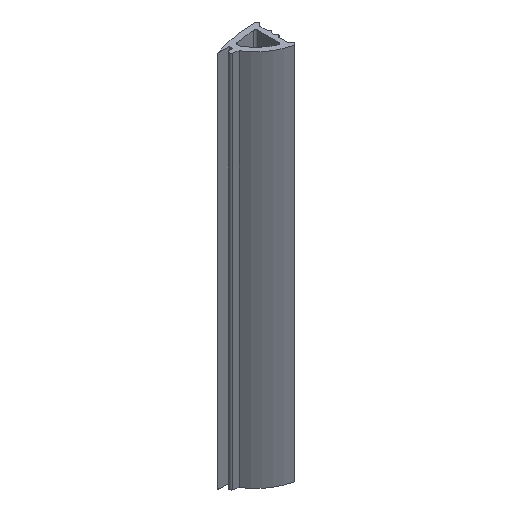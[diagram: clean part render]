
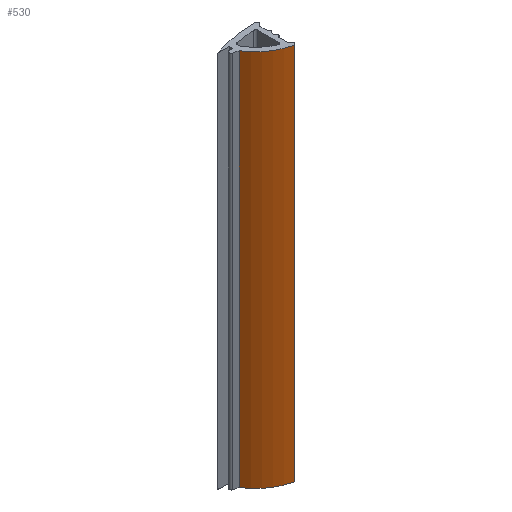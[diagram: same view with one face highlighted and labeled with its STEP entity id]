
A CAD part, isometric view. The second image highlights one B-rep face of the part: STEP entity #530.
In plain terms, the highlighted cylindrical face has radius 13.018 mm (diameter 26.037 mm), a partial arc.
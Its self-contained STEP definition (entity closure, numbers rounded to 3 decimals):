
#8 = CARTESIAN_POINT ( 'NONE',  ( -6.661, -2.302, 0. ) ) ;
#14 = DIRECTION ( 'NONE',  ( 0., 0., 1. ) ) ;
#40 = CYLINDRICAL_SURFACE ( 'NONE', #699, 13.018 ) ;
#42 = CARTESIAN_POINT ( 'NONE',  ( 1.924, -8.242, 100. ) ) ;
#43 = LINE ( 'NONE', #193, #776 ) ;
#53 = ORIENTED_EDGE ( 'NONE', *, *, #550, .F. ) ;
#55 = AXIS2_PLACEMENT_3D ( 'NONE', #525, #14, #586 ) ;
#80 = VERTEX_POINT ( 'NONE', #765 ) ;
#101 = AXIS2_PLACEMENT_3D ( 'NONE', #493, #686, #848 ) ;
#105 = VERTEX_POINT ( 'NONE', #42 ) ;
#156 = VECTOR ( 'NONE', #743, 1000. ) ;
#193 = CARTESIAN_POINT ( 'NONE',  ( 1.924, -8.242, 100. ) ) ;
#218 = LINE ( 'NONE', #351, #156 ) ;
#236 = DIRECTION ( 'NONE',  ( -1., 0., 0. ) ) ;
#245 = DIRECTION ( 'NONE',  ( 0., 0., -1. ) ) ;
#282 = VERTEX_POINT ( 'NONE', #8 ) ;
#308 = ORIENTED_EDGE ( 'NONE', *, *, #752, .F. ) ;
#351 = CARTESIAN_POINT ( 'NONE',  ( -6.661, -2.302, 100. ) ) ;
#353 = ORIENTED_EDGE ( 'NONE', *, *, #509, .T. ) ;
#357 = CIRCLE ( 'NONE', #55, 13.018 ) ;
#481 = VERTEX_POINT ( 'NONE', #767 ) ;
#493 = CARTESIAN_POINT ( 'NONE',  ( 4.417, 4.535, 0. ) ) ;
#509 = EDGE_CURVE ( 'NONE', #282, #481, #556, .T. ) ;
#516 = DIRECTION ( 'NONE',  ( 0., 0., -1. ) ) ;
#525 = CARTESIAN_POINT ( 'NONE',  ( 4.417, 4.535, 100. ) ) ;
#530 = ADVANCED_FACE ( 'NONE', ( #845 ), #40, .T. ) ;
#550 = EDGE_CURVE ( 'NONE', #105, #481, #43, .T. ) ;
#556 = CIRCLE ( 'NONE', #101, 13.018 ) ;
#585 = ORIENTED_EDGE ( 'NONE', *, *, #724, .T. ) ;
#586 = DIRECTION ( 'NONE',  ( 1., 0., 0. ) ) ;
#613 = CARTESIAN_POINT ( 'NONE',  ( 4.417, 4.535, 100. ) ) ;
#686 = DIRECTION ( 'NONE',  ( 0., 0., 1. ) ) ;
#699 = AXIS2_PLACEMENT_3D ( 'NONE', #613, #245, #236 ) ;
#724 = EDGE_CURVE ( 'NONE', #80, #282, #218, .T. ) ;
#743 = DIRECTION ( 'NONE',  ( 0., 0., -1. ) ) ;
#752 = EDGE_CURVE ( 'NONE', #80, #105, #357, .T. ) ;
#765 = CARTESIAN_POINT ( 'NONE',  ( -6.661, -2.302, 100. ) ) ;
#767 = CARTESIAN_POINT ( 'NONE',  ( 1.924, -8.242, 0. ) ) ;
#776 = VECTOR ( 'NONE', #516, 1000. ) ;
#845 = FACE_OUTER_BOUND ( 'NONE', #849, .T. ) ;
#848 = DIRECTION ( 'NONE',  ( 1., 0., 0. ) ) ;
#849 = EDGE_LOOP ( 'NONE', ( #353, #53, #308, #585 ) ) ;
